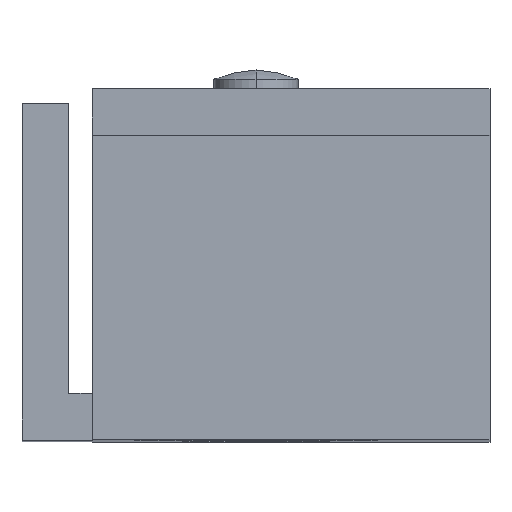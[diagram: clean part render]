
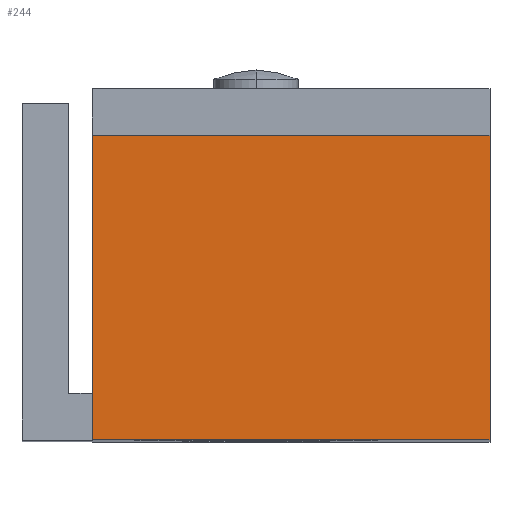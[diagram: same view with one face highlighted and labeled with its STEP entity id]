
A CAD part, top view. The second image highlights one B-rep face of the part: STEP entity #244.
In plain terms, the highlighted planar face has unit normal (0, 0, 1).
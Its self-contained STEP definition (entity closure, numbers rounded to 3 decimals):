
#186 = VERTEX_POINT ( 'NONE', #834 ) ;
#195 = ORIENTED_EDGE ( 'NONE', *, *, #201, .T. ) ;
#196 = EDGE_CURVE ( 'NONE', #418, #186, #832, .T. ) ;
#197 = ORIENTED_EDGE ( 'NONE', *, *, #456, .F. ) ;
#198 = ORIENTED_EDGE ( 'NONE', *, *, #196, .T. ) ;
#199 = ORIENTED_EDGE ( 'NONE', *, *, #200, .T. ) ;
#200 = EDGE_CURVE ( 'NONE', #202, #457, #828, .T. ) ;
#201 = EDGE_CURVE ( 'NONE', #186, #202, #824, .T. ) ;
#202 = VERTEX_POINT ( 'NONE', #820 ) ;
#215 = EDGE_LOOP ( 'NONE', ( #195, #199, #197, #198 ) ) ;
#244 = ADVANCED_FACE ( 'NONE', ( #731 ), #730, .T. ) ;
#418 = VERTEX_POINT ( 'NONE', #1138 ) ;
#456 = EDGE_CURVE ( 'NONE', #418, #457, #1247, .T. ) ;
#457 = VERTEX_POINT ( 'NONE', #1243 ) ;
#726 = DIRECTION ( 'NONE',  ( 1., 0., 0. ) ) ;
#727 = DIRECTION ( 'NONE',  ( 0., 0., 1. ) ) ;
#728 = CARTESIAN_POINT ( 'NONE',  ( 10., 0., 13.5 ) ) ;
#729 = AXIS2_PLACEMENT_3D ( 'NONE', #728, #727, #726 ) ;
#730 = PLANE ( 'NONE',  #729 ) ;
#731 = FACE_OUTER_BOUND ( 'NONE', #215, .T. ) ;
#820 = CARTESIAN_POINT ( 'NONE',  ( 1.5, 6.5, 13.5 ) ) ;
#821 = DIRECTION ( 'NONE',  ( -1., 0., 0. ) ) ;
#822 = VECTOR ( 'NONE', #821, 1000. ) ;
#823 = CARTESIAN_POINT ( 'NONE',  ( 10., 6.5, 13.5 ) ) ;
#824 = LINE ( 'NONE', #823, #822 ) ;
#825 = DIRECTION ( 'NONE',  ( 0., -1., 0. ) ) ;
#826 = VECTOR ( 'NONE', #825, 1000. ) ;
#827 = CARTESIAN_POINT ( 'NONE',  ( 1.5, 0., 13.5 ) ) ;
#828 = LINE ( 'NONE', #827, #826 ) ;
#829 = DIRECTION ( 'NONE',  ( 0., 1., 0. ) ) ;
#830 = VECTOR ( 'NONE', #829, 1000. ) ;
#831 = CARTESIAN_POINT ( 'NONE',  ( 10., 0., 13.5 ) ) ;
#832 = LINE ( 'NONE', #831, #830 ) ;
#834 = CARTESIAN_POINT ( 'NONE',  ( 10., 6.5, 13.5 ) ) ;
#1138 = CARTESIAN_POINT ( 'NONE',  ( 10., 0., 13.5 ) ) ;
#1243 = CARTESIAN_POINT ( 'NONE',  ( 1.5, 0., 13.5 ) ) ;
#1244 = DIRECTION ( 'NONE',  ( -1., 0., 0. ) ) ;
#1245 = VECTOR ( 'NONE', #1244, 1000. ) ;
#1246 = CARTESIAN_POINT ( 'NONE',  ( 10., 0., 13.5 ) ) ;
#1247 = LINE ( 'NONE', #1246, #1245 ) ;
